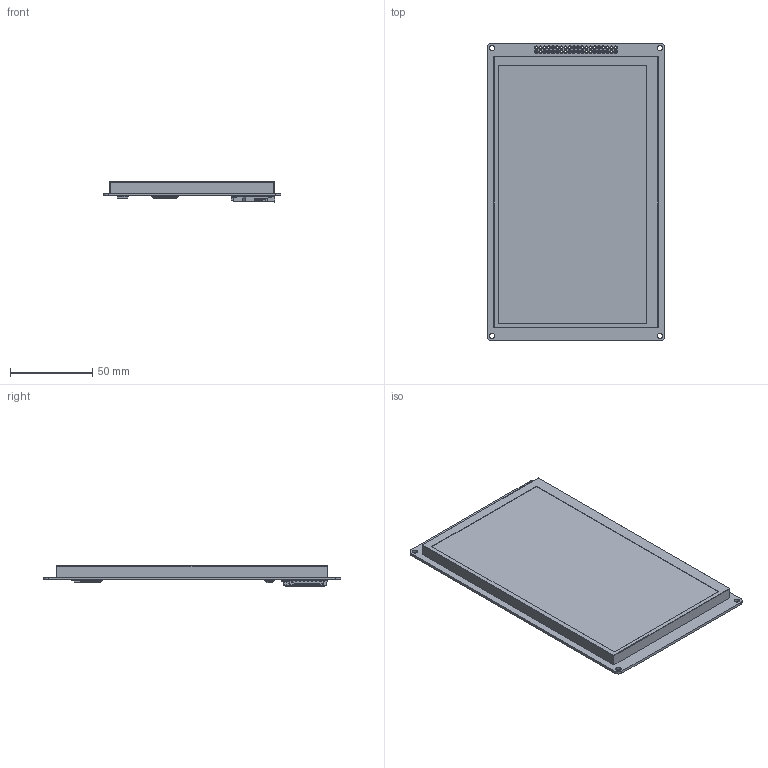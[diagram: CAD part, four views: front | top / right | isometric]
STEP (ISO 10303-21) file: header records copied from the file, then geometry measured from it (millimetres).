
FILE_DESCRIPTION (( 'STEP AP214' ), '1' );
FILE_NAME ('User Library-LCD73ich.STEP', '2019-12-17T16:07:20', ( '' ), ( '' ), 'SwSTEP 2.0', 'SolidWorks 2019', '' );
FILE_SCHEMA (( 'AUTOMOTIVE_DESIGN' ));
Length unit declared in the file: millimetre
Products named in the file (1): User Library-LCD73ich
Bounding box: 108 x 181 x 12.52 mm (x, y, z)
Volume: 142652.3 mm3; surface area: 47603.1 mm2
Topology: 5 solids, 5 shells, 2631 faces, 7109 edges, 4701 vertices
Faces by surface type: plane 1698, cylinder 915, sphere 18
Entity records: 111654 total; most frequent: CARTESIAN_POINT 14430, DIRECTION 14205, ORIENTED_EDGE 14194, EDGE_CURVE 7097, LINE 5253, VECTOR 5253, VERTEX_POINT 4701, AXIS2_PLACEMENT_3D 4476
